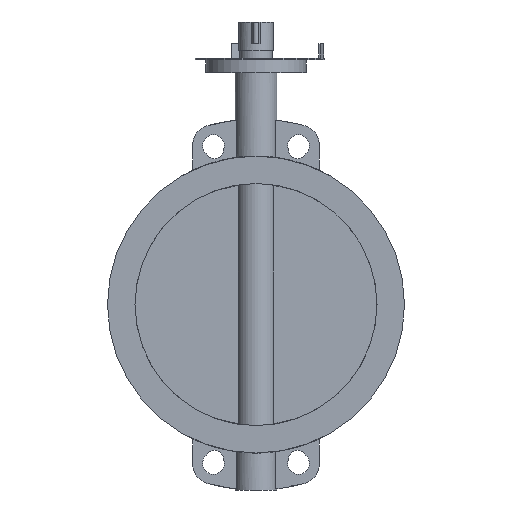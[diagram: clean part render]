
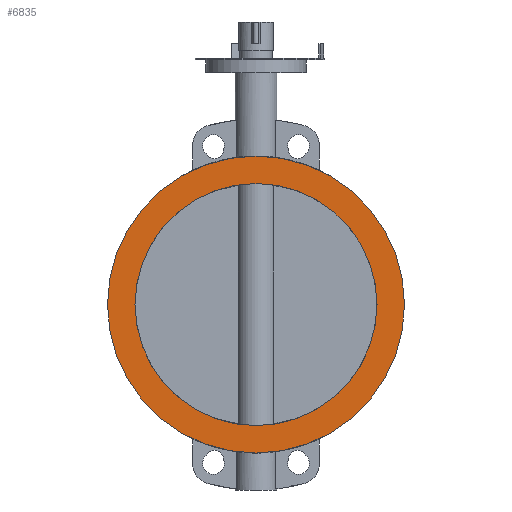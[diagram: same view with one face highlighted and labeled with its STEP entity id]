
A CAD part, left-side view. The second image highlights one B-rep face of the part: STEP entity #6835.
In plain terms, the highlighted planar face has unit normal (-1, 0, 0).
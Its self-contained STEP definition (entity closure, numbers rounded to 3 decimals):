
#6835=ADVANCED_FACE('',(#13658,#13660),#13662,.F.);
#13658=FACE_BOUND('',#13659,.T.);
#13659=EDGE_LOOP('',(#19197));
#13660=FACE_BOUND('',#13661,.T.);
#13661=EDGE_LOOP('',(#19198));
#13662=PLANE('',#13663);
#13663=AXIS2_PLACEMENT_3D('',#13664,#13665,#13666);
#13664=CARTESIAN_POINT('',(-39.,0.,0.));
#13665=DIRECTION('',(1.,0.,0.));
#13666=DIRECTION('',(0.,1.,0.));
#19197=ORIENTED_EDGE('',*,*,#22083,.F.);
#19198=ORIENTED_EDGE('',*,*,#22489,.T.);
#22083=EDGE_CURVE('',#26108,#26108,#26109,.T.);
#22489=EDGE_CURVE('',#26699,#26699,#26700,.T.);
#26108=VERTEX_POINT('',#35620);
#26109=CIRCLE('',#35621,185.);
#26699=VERTEX_POINT('',#37346);
#26700=CIRCLE('',#37347,150.75);
#35620=CARTESIAN_POINT('',(-39.,185.,0.));
#35621=AXIS2_PLACEMENT_3D('',#35622,#35623,#35624);
#35622=CARTESIAN_POINT('',(-39.,0.,0.));
#35623=DIRECTION('',(1.,0.,0.));
#35624=DIRECTION('',(0.,1.,0.));
#37346=CARTESIAN_POINT('',(-39.,150.75,0.));
#37347=AXIS2_PLACEMENT_3D('',#37348,#37349,#37350);
#37348=CARTESIAN_POINT('',(-39.,0.,0.));
#37349=DIRECTION('',(1.,0.,0.));
#37350=DIRECTION('',(0.,1.,0.));
